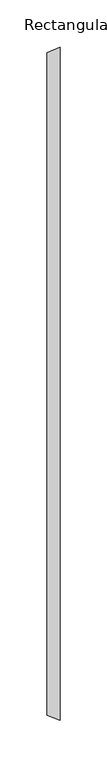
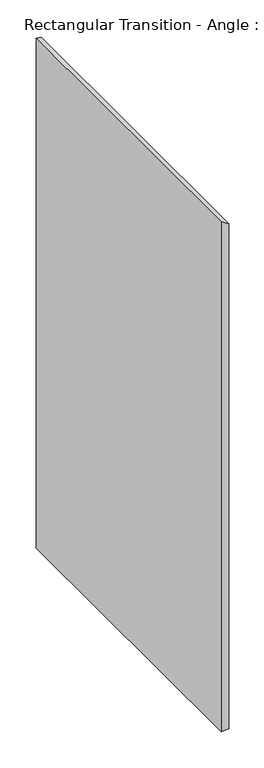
"""IFC4 building model written with IfcOpenShell, lengths in millimetres: duct fitting geometry, Rectangular Transition - Angle : 45 Degree."""

import ifcopenshell
import ifcopenshell.guid

model = None  # the IFC model being written
_history = None  # IfcOwnerHistory: only IFC2X3 demands one
_inside = {}  # id of a spatial element -> (the spatial element, [elements in it])
_under = {}  # id of a project, library or spatial element -> (it, [spatial elements below it])
_declared = {}  # id of a project -> (the project, [libraries it declares])
_typed = {}  # id of a type object -> (the type object, [elements of that type])
_made_of = {}  # id of a material, layer set ... -> (it, [elements and type objects made of it])


def new_model(schema):
    """Start an empty IFC model of exactly this schema.

    Asked for "IFC4X3", IfcOpenShell would pick the latest addendum, in which some entities
    have other attributes; the version numbers below select the first issue.
    IFC2X3 requires an IfcOwnerHistory on every rooted entity: one is made here for all.
    """
    global model, _history
    if schema == "IFC4X3":
        model = ifcopenshell.file(schema_version=(4, 3, 0, 0))
    else:
        model = ifcopenshell.file(schema=schema)
    _inside.clear()
    _under.clear()
    _declared.clear()
    _typed.clear()
    _made_of.clear()
    _history = None
    if model.schema == "IFC2X3":
        org = make("IfcOrganization", Name="unknown")
        user = make(
            "IfcPersonAndOrganization",
            ThePerson=make("IfcPerson", FamilyName="unknown"),
            TheOrganization=org,
        )
        app = make(
            "IfcApplication",
            ApplicationDeveloper=org,
            Version="unknown",
            ApplicationFullName="unknown",
            ApplicationIdentifier="unknown",
        )
        _history = make(
            "IfcOwnerHistory",
            OwningUser=user,
            OwningApplication=app,
            ChangeAction="ADDED",
            CreationDate=0,
        )
    return model


def make(cls, **values):
    """One entity of the class cls with the attributes given. An attribute that is None is left unset."""
    return model.create_entity(
        cls, **{name: value for name, value in values.items() if value is not None}
    )


def rooted(cls, **values):
    """An entity with a GlobalId (a new one), such as an element, a storey or a relation."""
    return make(cls, GlobalId=ifcopenshell.guid.new(), OwnerHistory=_history, **values)


def si_unit(unit_type, name, prefix=None):
    """IfcSIUnit, for example si_unit("LENGTHUNIT", "METRE", prefix="MILLI")."""
    return make("IfcSIUnit", UnitType=unit_type, Prefix=prefix, Name=name)


def assignment(units):
    """IfcUnitAssignment: the units of a project."""
    return None if units is None else make("IfcUnitAssignment", Units=units)


def point(xyz):
    """IfcCartesianPoint."""
    return None if xyz is None else make("IfcCartesianPoint", Coordinates=xyz)


def direction(xyz):
    """IfcDirection."""
    return None if xyz is None else make("IfcDirection", DirectionRatios=xyz)


def frame(location, z_axis=None, x_axis=None):
    """IfcAxis2Placement3D, a coordinate frame: its origin and axes. An axis left out is left unset."""
    return make(
        "IfcAxis2Placement3D",
        Location=point(location),
        Axis=direction(z_axis),
        RefDirection=direction(x_axis),
    )


def origin():
    """The frame at (0, 0, 0) with its axes left unset."""
    return frame((0.0, 0.0, 0.0))


def place(relative_to, where):
    """IfcLocalPlacement: puts the frame where relative to a parent placement (None: the world)."""
    return make(
        "IfcLocalPlacement", PlacementRelTo=relative_to, RelativePlacement=where
    )


def context(
    kind, dimensions, precision=None, world=None, true_north=None, identifier=None
):
    """IfcGeometricRepresentationContext, for example the 3D "Model" context."""
    return make(
        "IfcGeometricRepresentationContext",
        ContextIdentifier=identifier,
        ContextType=kind,
        CoordinateSpaceDimension=dimensions,
        Precision=precision,
        WorldCoordinateSystem=world,
        TrueNorth=true_north,
    )


def project(units=None, contexts=None):
    """IfcProject with its units and contexts."""
    return rooted(
        "IfcProject",
        Name="project",
        RepresentationContexts=contexts,
        UnitsInContext=assignment(units),
    )


def spatial(cls, under=None, at=None, **own):
    """A site, building, storey or space (cls), placed at a placement, below another one or the project."""
    s = rooted(cls, ObjectPlacement=at, **own)
    if under is not None:
        _under.setdefault(under.id(), (under, []))[1].append(s)
    return s


def faces_of(points, faces, orient=None, outer=None):
    """IfcFace entities. A face is a list of loops; a loop is a list of indices into points, from 0.

    orient and outer hold one flag for each loop. By default every Orientation is true, the
    first loop of a face is its IfcFaceOuterBound and the others are IfcFaceBound.
    """
    made = []
    for i, loops in enumerate(faces):
        bounds = []
        for j, loop in enumerate(loops):
            is_outer = j == 0 if outer is None else outer[i][j]
            bounds.append(
                make(
                    "IfcFaceOuterBound" if is_outer else "IfcFaceBound",
                    Bound=make("IfcPolyLoop", Polygon=[points[k] for k in loop]),
                    Orientation=True if orient is None else orient[i][j],
                )
            )
        made.append(make("IfcFace", Bounds=bounds))
    return made


def faceted_brep(points, faces, orient=None, outer=None, voids=None):
    """IfcFacetedBrep: a solid bounded by flat faces; with voids (closed shells), ...WithVoids."""
    shared = [point(p) for p in points]
    hull = make("IfcClosedShell", CfsFaces=faces_of(shared, faces, orient, outer))
    if voids is None:
        return make("IfcFacetedBrep", Outer=hull)
    return make(
        "IfcFacetedBrepWithVoids",
        Outer=hull,
        Voids=[
            make(cls, CfsFaces=faces_of(shared, fs, o, b)) for cls, fs, o, b in voids
        ],
    )


def shape(context_of_items, identifier, shape_type, items):
    """IfcShapeRepresentation: the items that make up one representation, for example the "Body"."""
    return make(
        "IfcShapeRepresentation",
        ContextOfItems=context_of_items,
        RepresentationIdentifier=identifier,
        RepresentationType=shape_type,
        Items=items,
    )


def source(mapping_origin, context_of_items, identifier, shape_type, items):
    """IfcRepresentationMap: a shape defined once, which mapped items show again and again."""
    return make(
        "IfcRepresentationMap",
        MappingOrigin=mapping_origin,
        MappedRepresentation=shape(context_of_items, identifier, shape_type, items),
    )


def transform(
    local_origin,
    x_axis=None,
    y_axis=None,
    z_axis=None,
    scale=None,
    scale2=None,
    scale3=None,
    uniform=True,
):
    """IfcCartesianTransformationOperator3D, or its non-uniform kind. x_axis, y_axis, z_axis: its Axis1, 2, 3."""
    if uniform:
        return make(
            "IfcCartesianTransformationOperator3D",
            Axis1=direction(x_axis),
            Axis2=direction(y_axis),
            LocalOrigin=point(local_origin),
            Scale=scale,
            Axis3=direction(z_axis),
        )
    return make(
        "IfcCartesianTransformationOperator3DnonUniform",
        Axis1=direction(x_axis),
        Axis2=direction(y_axis),
        LocalOrigin=point(local_origin),
        Scale=scale,
        Axis3=direction(z_axis),
        Scale2=scale2,
        Scale3=scale3,
    )


def mapped(mapping_source, mapping_target):
    """IfcMappedItem: shows the shape of a source again, moved by a transform."""
    return make(
        "IfcMappedItem", MappingSource=mapping_source, MappingTarget=mapping_target
    )


def made_of(thing, what):
    """Note that an element or type object is made of a material, layer set ...; save() writes the relation."""
    if what is not None:
        _made_of.setdefault(what.id(), (what, []))[1].append(thing)
    return thing


def element(
    cls,
    number,
    at=None,
    inside=None,
    cuts=None,
    type_object=None,
    material=None,
    context=None,
    identifier="Body",
    shape_type=None,
    held_by="IfcProductDefinitionShape",
    body=None,
    shapes=None,
    **own,
):
    """One element of the class cls, such as IfcWall. Its Tag is "e" and its number.

    at: its placement. inside: the storey or other place that contains it. cuts: it is an
    opening in that element (IfcRelVoidsElement). A single representation is given by context,
    identifier, shape_type and body (its items); several are given by shapes. held_by: the class
    of the entity that holds the representations. save() writes the other relations.
    """
    e = rooted(cls, Tag="e%d" % number, ObjectPlacement=at, **own)
    if body is not None:
        shapes = [shape(context, identifier, shape_type, body)]
    if shapes is not None:
        e.Representation = make(held_by, Representations=shapes)
    if inside is not None:
        _inside.setdefault(inside.id(), (inside, []))[1].append(e)
    if cuts is not None:
        rooted(
            "IfcRelVoidsElement", RelatingBuildingElement=cuts, RelatedOpeningElement=e
        )
    if type_object is not None:
        _typed.setdefault(type_object.id(), (type_object, []))[1].append(e)
    return made_of(e, material)


def aggregate(whole, parts):
    """IfcRelAggregates: a whole, such as a stair, and the parts it consists of."""
    return rooted("IfcRelAggregates", RelatingObject=whole, RelatedObjects=parts)


def save(model, path):
    """Write the relations noted so far, then the file.

    IfcRelAggregates (storeys below a building ...), IfcRelContainedInSpatialStructure (elements
    in a storey), IfcRelDefinesByType, IfcRelAssociatesMaterial and IfcRelDeclares: one each for
    every whole, place, type object, material and project.
    """
    for whole, parts in _under.values():
        aggregate(whole, parts)
    for where, things in _inside.values():
        rooted(
            "IfcRelContainedInSpatialStructure",
            RelatedElements=things,
            RelatingStructure=where,
        )
    for kind, things in _typed.values():
        rooted("IfcRelDefinesByType", RelatedObjects=things, RelatingType=kind)
    for what, things in _made_of.values():
        rooted("IfcRelAssociatesMaterial", RelatedObjects=things, RelatingMaterial=what)
    for by, libraries in _declared.values():
        rooted("IfcRelDeclares", RelatingContext=by, RelatedDefinitions=libraries)
    model.write(path)


def rectangular_transition_angle_45_degree_b09042f5(model_context):
    return source(origin(), model_context, "Body", "Brep", [
        faceted_brep([(13.4139741, -355.6, 584.2), (13.4139741, -355.6, -584.2), (13.4139741, 355.6, -584.2), (13.4139741, 355.6, 584.2), (0.0, -350.04375, 589.75625), (0.0, 350.04375, 589.75625), (0.0, 350.04375, -589.75625), (0.0, -350.04375, -589.75625)], [[[0, 1, 2, 3]], [[4, 5, 6, 7]], [[4, 7, 1, 0]], [[7, 6, 2, 1]], [[6, 5, 3, 2]], [[5, 4, 0, 3]]]),
    ])


if __name__ == "__main__":
    model = new_model("IFC4")
    model_context = context("Model", 3, world=origin())
    ifc_project = project(units=[si_unit("LENGTHUNIT", "METRE", prefix="MILLI")], contexts=[model_context])
    site = spatial("IfcSite", under=ifc_project)
    building = spatial("IfcBuilding", under=site)
    placement = place(None, origin())
    rectangular_transition_angle_45_degree_shape = rectangular_transition_angle_45_degree_b09042f5(model_context)
    element("IfcDuctFitting", 1, ObjectType="Rectangular Transition - Angle : 45 Degree", at=placement, inside=building, context=model_context, shape_type="MappedRepresentation", body=[
        mapped(rectangular_transition_angle_45_degree_shape, transform((0.0, 0.0, 0.0), x_axis=(1.0, 0.0, 0.0), y_axis=(0.0, 1.0, 0.0), z_axis=(0.0, 0.0, 1.0))),
    ])
    save(model, "model.ifc")
